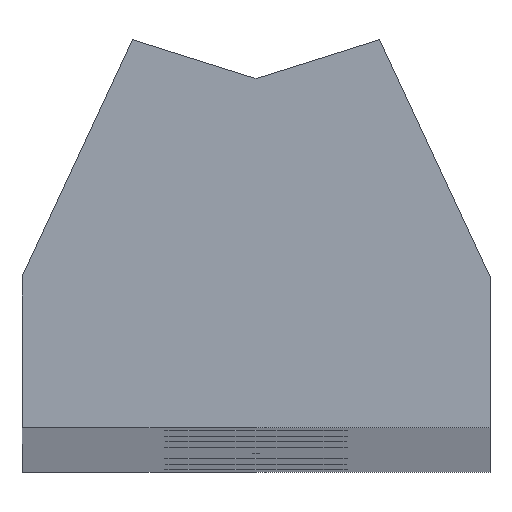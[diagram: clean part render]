
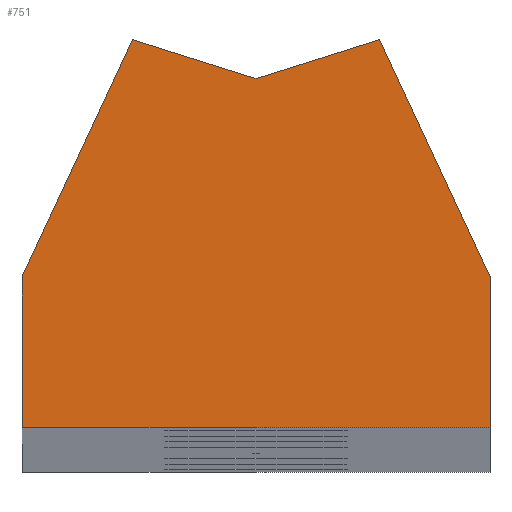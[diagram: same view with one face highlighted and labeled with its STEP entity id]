
A CAD part, top view. The second image highlights one B-rep face of the part: STEP entity #751.
In plain terms, the highlighted planar face has unit normal (0, 0, 1).
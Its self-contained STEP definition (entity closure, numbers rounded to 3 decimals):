
#8 = DIRECTION ( 'NONE',  ( -0.423, 0.906, 0. ) ) ;
#11 = VECTOR ( 'NONE', #647, 1000. ) ;
#12 = VECTOR ( 'NONE', #838, 1000. ) ;
#30 = VECTOR ( 'NONE', #816, 1000. ) ;
#44 = DIRECTION ( 'NONE',  ( -0.423, -0.906, 0. ) ) ;
#48 = LINE ( 'NONE', #723, #11 ) ;
#78 = CARTESIAN_POINT ( 'NONE',  ( 2.9, 9.123, 299.75 ) ) ;
#82 = CARTESIAN_POINT ( 'NONE',  ( 5.5, 3.547, 299.75 ) ) ;
#108 = VECTOR ( 'NONE', #262, 1000. ) ;
#123 = VECTOR ( 'NONE', #1032, 1000. ) ;
#134 = ORIENTED_EDGE ( 'NONE', *, *, #211, .T. ) ;
#157 = ORIENTED_EDGE ( 'NONE', *, *, #974, .T. ) ;
#189 = EDGE_CURVE ( 'NONE', #759, #473, #820, .T. ) ;
#195 = VECTOR ( 'NONE', #8, 1000. ) ;
#211 = EDGE_CURVE ( 'NONE', #892, #492, #600, .T. ) ;
#250 = DIRECTION ( 'NONE',  ( 1., 0., 0. ) ) ;
#257 = CARTESIAN_POINT ( 'NONE',  ( -2.9, 9.123, 299.75 ) ) ;
#258 = ORIENTED_EDGE ( 'NONE', *, *, #189, .T. ) ;
#262 = DIRECTION ( 'NONE',  ( 0., -1., 0. ) ) ;
#281 = LINE ( 'NONE', #614, #12 ) ;
#343 = LINE ( 'NONE', #725, #108 ) ;
#355 = CARTESIAN_POINT ( 'NONE',  ( 5.5, 3.547, 299.75 ) ) ;
#375 = CARTESIAN_POINT ( 'NONE',  ( -5.5, 3.547, 299.75 ) ) ;
#384 = LINE ( 'NONE', #1026, #123 ) ;
#403 = EDGE_CURVE ( 'NONE', #867, #836, #384, .T. ) ;
#465 = EDGE_CURVE ( 'NONE', #780, #892, #734, .T. ) ;
#473 = VERTEX_POINT ( 'NONE', #78 ) ;
#492 = VERTEX_POINT ( 'NONE', #375 ) ;
#501 = CARTESIAN_POINT ( 'NONE',  ( 0., 8.209, 299.75 ) ) ;
#505 = PLANE ( 'NONE',  #693 ) ;
#600 = LINE ( 'NONE', #913, #908 ) ;
#614 = CARTESIAN_POINT ( 'NONE',  ( 2.9, 9.123, 299.75 ) ) ;
#629 = EDGE_CURVE ( 'NONE', #836, #759, #48, .T. ) ;
#647 = DIRECTION ( 'NONE',  ( 0., 1., 0. ) ) ;
#651 = ORIENTED_EDGE ( 'NONE', *, *, #403, .T. ) ;
#658 = CARTESIAN_POINT ( 'NONE',  ( 5.5, 0., 299.75 ) ) ;
#663 = CARTESIAN_POINT ( 'NONE',  ( -5.5, 0., 299.75 ) ) ;
#693 = AXIS2_PLACEMENT_3D ( 'NONE', #733, #744, #250 ) ;
#703 = ORIENTED_EDGE ( 'NONE', *, *, #629, .T. ) ;
#723 = CARTESIAN_POINT ( 'NONE',  ( 5.5, 0., 299.75 ) ) ;
#725 = CARTESIAN_POINT ( 'NONE',  ( -5.5, 3.547, 299.75 ) ) ;
#733 = CARTESIAN_POINT ( 'NONE',  ( 0., 0., 299.75 ) ) ;
#734 = LINE ( 'NONE', #501, #30 ) ;
#744 = DIRECTION ( 'NONE',  ( 0., 0., 1. ) ) ;
#751 = ADVANCED_FACE ( 'NONE', ( #752 ), #505, .T. ) ;
#752 = FACE_OUTER_BOUND ( 'NONE', #774, .T. ) ;
#759 = VERTEX_POINT ( 'NONE', #82 ) ;
#774 = EDGE_LOOP ( 'NONE', ( #804, #134, #942, #651, #703, #258, #157 ) ) ;
#780 = VERTEX_POINT ( 'NONE', #825 ) ;
#804 = ORIENTED_EDGE ( 'NONE', *, *, #465, .T. ) ;
#816 = DIRECTION ( 'NONE',  ( -0.954, 0.301, 0. ) ) ;
#820 = LINE ( 'NONE', #355, #195 ) ;
#825 = CARTESIAN_POINT ( 'NONE',  ( 0., 8.209, 299.75 ) ) ;
#836 = VERTEX_POINT ( 'NONE', #658 ) ;
#838 = DIRECTION ( 'NONE',  ( -0.954, -0.301, 0. ) ) ;
#867 = VERTEX_POINT ( 'NONE', #663 ) ;
#892 = VERTEX_POINT ( 'NONE', #257 ) ;
#908 = VECTOR ( 'NONE', #44, 1000. ) ;
#913 = CARTESIAN_POINT ( 'NONE',  ( -2.9, 9.123, 299.75 ) ) ;
#938 = EDGE_CURVE ( 'NONE', #492, #867, #343, .T. ) ;
#942 = ORIENTED_EDGE ( 'NONE', *, *, #938, .T. ) ;
#974 = EDGE_CURVE ( 'NONE', #473, #780, #281, .T. ) ;
#1026 = CARTESIAN_POINT ( 'NONE',  ( -5.5, 0., 299.75 ) ) ;
#1032 = DIRECTION ( 'NONE',  ( 1., 0., 0. ) ) ;
